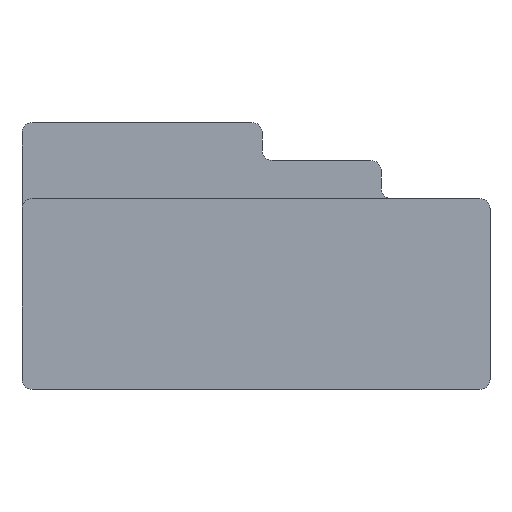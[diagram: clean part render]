
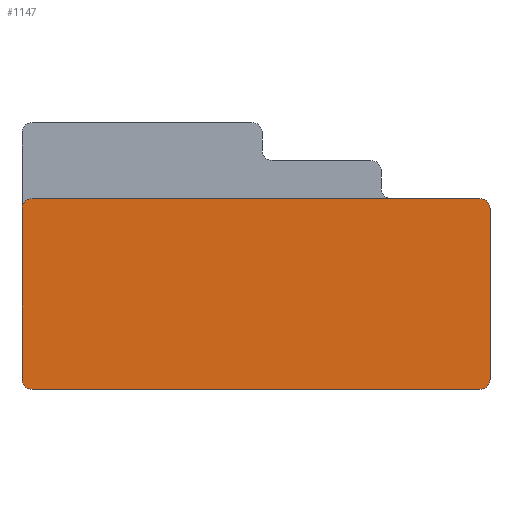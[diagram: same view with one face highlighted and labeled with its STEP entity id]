
A CAD part, front view. The second image highlights one B-rep face of the part: STEP entity #1147.
In plain terms, the highlighted planar face has unit normal (0, -1, 0).
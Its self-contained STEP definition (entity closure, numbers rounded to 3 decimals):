
#210=CARTESIAN_POINT('',(-10.9,-11.6,8.8));
#211=DIRECTION('',(0.,-1.,0.));
#212=DIRECTION('',(0.,0.,1.));
#213=AXIS2_PLACEMENT_3D('',#210,#211,#212);
#215=CARTESIAN_POINT('',(10.9,-11.6,8.8));
#216=DIRECTION('',(0.,-1.,0.));
#217=DIRECTION('',(1.,0.,0.));
#218=AXIS2_PLACEMENT_3D('',#215,#216,#217);
#220=CARTESIAN_POINT('',(10.9,-11.6,0.5));
#221=DIRECTION('',(0.,-1.,0.));
#222=DIRECTION('',(0.,0.,-1.));
#223=AXIS2_PLACEMENT_3D('',#220,#221,#222);
#225=CARTESIAN_POINT('',(-10.9,-11.6,0.5));
#226=DIRECTION('',(0.,-1.,0.));
#227=DIRECTION('',(-1.,0.,0.));
#228=AXIS2_PLACEMENT_3D('',#225,#226,#227);
#230=DIRECTION('',(0.,0.,1.));
#231=VECTOR('',#230,8.3);
#232=CARTESIAN_POINT('',(-11.4,-11.6,0.5));
#233=LINE('',#232,#231);
#318=DIRECTION('',(1.,0.,0.));
#319=VECTOR('',#318,21.8);
#320=CARTESIAN_POINT('',(-10.9,-11.6,9.3));
#321=LINE('',#320,#319);
#510=DIRECTION('',(1.,0.,0.));
#511=VECTOR('',#510,21.8);
#512=CARTESIAN_POINT('',(-10.9,-11.6,0.));
#513=LINE('',#512,#511);
#580=DIRECTION('',(0.,0.,1.));
#581=VECTOR('',#580,8.3);
#582=CARTESIAN_POINT('',(11.4,-11.6,0.5));
#583=LINE('',#582,#581);
#744=CARTESIAN_POINT('',(-10.9,-11.6,9.3));
#745=CARTESIAN_POINT('',(-11.4,-11.6,8.8));
#746=VERTEX_POINT('',#744);
#747=VERTEX_POINT('',#745);
#772=CARTESIAN_POINT('',(11.4,-11.6,8.8));
#773=VERTEX_POINT('',#772);
#774=CARTESIAN_POINT('',(10.9,-11.6,9.3));
#775=VERTEX_POINT('',#774);
#776=CARTESIAN_POINT('',(10.9,-11.6,0.));
#777=CARTESIAN_POINT('',(11.4,-11.6,0.5));
#778=VERTEX_POINT('',#776);
#779=VERTEX_POINT('',#777);
#788=CARTESIAN_POINT('',(-11.4,-11.6,0.5));
#789=VERTEX_POINT('',#788);
#790=CARTESIAN_POINT('',(-10.9,-11.6,0.));
#791=VERTEX_POINT('',#790);
#1125=CARTESIAN_POINT('',(-11.4,-11.6,0.));
#1126=DIRECTION('',(0.,-1.,0.));
#1127=DIRECTION('',(1.,0.,0.));
#1128=AXIS2_PLACEMENT_3D('',#1125,#1126,#1127);
#1129=PLANE('',#1128);
#1131=ORIENTED_EDGE('',*,*,#1130,.F.);
#1133=ORIENTED_EDGE('',*,*,#1132,.T.);
#1135=ORIENTED_EDGE('',*,*,#1134,.F.);
#1137=ORIENTED_EDGE('',*,*,#1136,.F.);
#1138=ORIENTED_EDGE('',*,*,#1115,.F.);
#1140=ORIENTED_EDGE('',*,*,#1139,.F.);
#1142=ORIENTED_EDGE('',*,*,#1141,.F.);
#1144=ORIENTED_EDGE('',*,*,#1143,.T.);
#1145=EDGE_LOOP('',(#1131,#1133,#1135,#1137,#1138,#1140,#1142,#1144));
#1146=FACE_OUTER_BOUND('',#1145,.F.);
#1147=ADVANCED_FACE('',(#1146),#1129,.T.);
#214=CIRCLE('',#213,0.5);
#219=CIRCLE('',#218,0.5);
#224=CIRCLE('',#223,0.5);
#229=CIRCLE('',#228,0.5);
#1115=EDGE_CURVE('',#778,#779,#224,.T.);
#1130=EDGE_CURVE('',#746,#747,#214,.T.);
#1132=EDGE_CURVE('',#746,#775,#321,.T.);
#1134=EDGE_CURVE('',#773,#775,#219,.T.);
#1136=EDGE_CURVE('',#779,#773,#583,.T.);
#1139=EDGE_CURVE('',#791,#778,#513,.T.);
#1141=EDGE_CURVE('',#789,#791,#229,.T.);
#1143=EDGE_CURVE('',#789,#747,#233,.T.);
